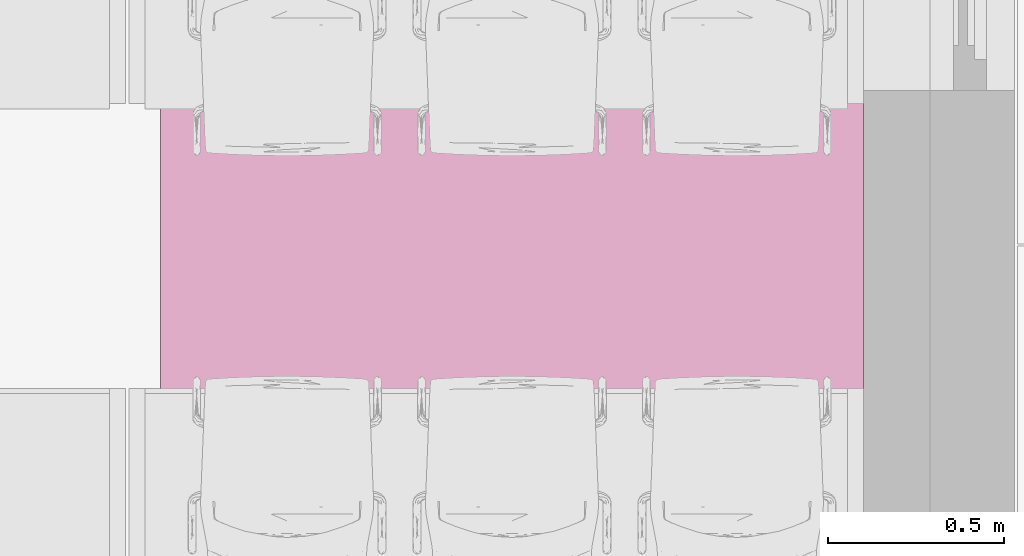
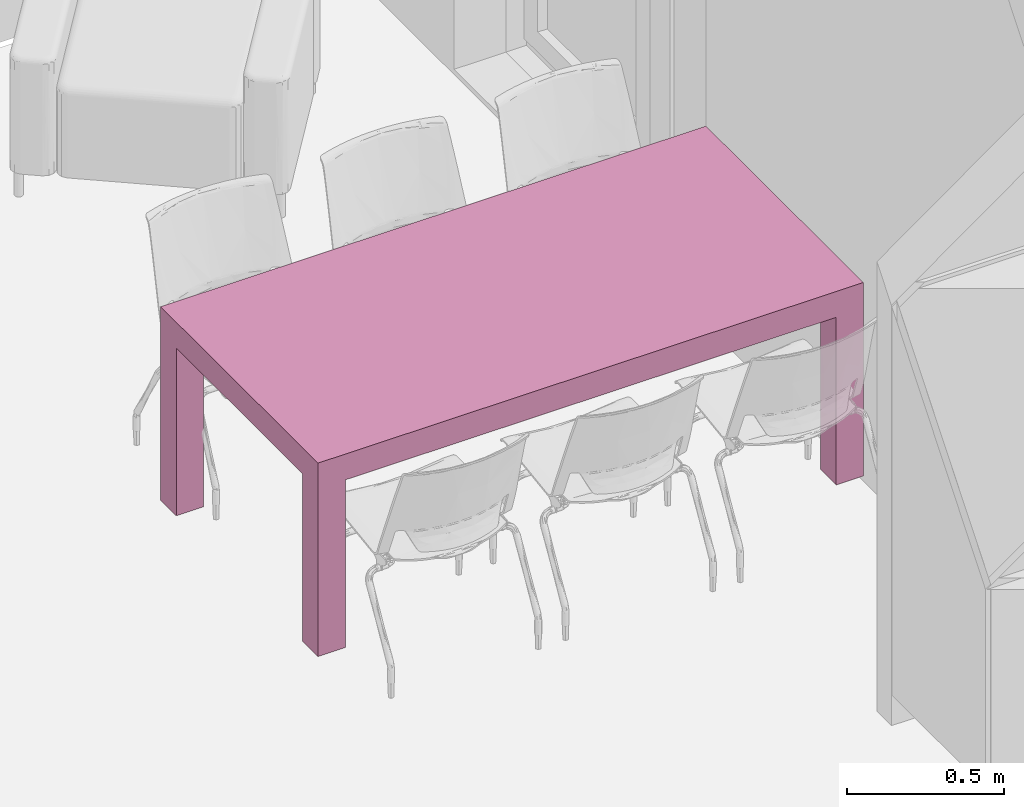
# One storey, part 36 of 57: 1 furnishing.
"""IFC2X3 building model written with IfcOpenShell, lengths in millimetres."""

from ifc_helpers import new_model, entity, si_unit, converted_unit, direction, frame, origin, place, context, subcontext, project, spatial, faceted_brep, source, transform, mapped, material, type_object, type_shapes, element, save


model = new_model("IFC2X3")

# Units and contexts
model_context = context("Model", 3, precision=0.01, world=origin(), true_north=direction((6.123233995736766e-17, 1.0)))
plan_context = context("Plan", 3, precision=0.01, world=origin(), true_north=direction((6.123233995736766e-17, 1.0)))
body_context = subcontext(model_context, "Body", "Model", "MODEL_VIEW")
ifc_project = project(units=[si_unit("LENGTHUNIT", "METRE", prefix="MILLI"), converted_unit("PLANEANGLEUNIT", "DEGREE", entity("IfcPlaneAngleMeasure", 0.017453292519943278), si_unit("PLANEANGLEUNIT", "RADIAN"), dimensions=[0, 0, 0, 0, 0, 0, 0]), si_unit("AREAUNIT", "SQUARE_METRE")], contexts=[model_context, plan_context])

# Site, building, storey, space
site_placement = place(None, origin())
site = spatial("IfcSite", under=ifc_project, at=site_placement, Name="Default", CompositionType="ELEMENT")
building_placement = place(site_placement, origin())
building = spatial("IfcBuilding", under=site, at=building_placement, CompositionType="ELEMENT")
storey_placement = place(building_placement, frame((0.0, 0.0, 12811.000000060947)))
storey = spatial("IfcBuildingStorey", under=building, at=storey_placement, Name="5K", CompositionType="ELEMENT", Elevation=12811.000000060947)
space_placement = place(storey_placement, origin())
space = spatial("IfcSpace", under=storey, at=space_placement, Name="5-12.4", CompositionType="ELEMENT", InteriorOrExteriorSpace="INTERNAL")

# Furnishing
ifc_material = material(Name="<Unnamed>")
furniture_type = type_object("IfcFurnitureType", Name="HR_Furniture_Table_Generic_v2016-02-11:2000x1000", AssemblyPlace="NOTDEFINED", material=ifc_material)
shared_shape = source(origin(), body_context, "Body", "Brep", [
    faceted_brep([(-500.0, -900.0, 0.0), (-400.0, -900.0, 0.0), (-400.0, -1000.0, 0.0), (-500.0, -1000.0, 0.0), (-400.0, 1000.0, 0.0), (-500.0, 1000.0, 0.0), (-500.0, 1000.0, 750.0), (500.0, 1000.0, 750.0), (500.0, 1000.0, 0.0), (400.0, 1000.0, 0.0), (400.0, 1000.0, 650.0), (-400.0, 1000.0, 650.0), (-500.0, 900.0, 0.0), (-500.0, 900.0, 650.0), (-500.0, -900.0, 650.0), (-500.0, -1000.0, 750.0), (-400.0, 900.0, 0.0), (-400.0, 900.0, 650.0), (400.0, 900.0, 0.0), (400.0, 900.0, 650.0), (500.0, 900.0, 0.0), (500.0, 900.0, 650.0), (500.0, -1000.0, 750.0), (500.0, -1000.0, 0.0), (500.0, -900.0, 0.0), (500.0, -900.0, 650.0), (400.0, -900.0, 0.0), (400.0, -900.0, 650.0), (400.0, -1000.0, 0.0), (400.0, -1000.0, 650.0), (-400.0, -1000.0, 650.0), (-400.0, -900.0, 650.0)], [[[0, 1, 2, 3]], [[4, 5, 6, 7, 8, 9, 10, 11]], [[6, 5, 12, 13, 14, 0, 3, 15]], [[12, 16, 17, 13]], [[16, 4, 11, 17]], [[9, 18, 19, 10]], [[18, 20, 21, 19]], [[20, 8, 7, 22, 23, 24, 25, 21]], [[24, 26, 27, 25]], [[26, 28, 29, 27]], [[28, 23, 22, 15, 3, 2, 30, 29]], [[2, 1, 31, 30]], [[1, 0, 14, 31]], [[7, 6, 15, 22]], [[11, 10, 19, 21, 25, 27, 29, 30, 31, 14, 13, 17]], [[4, 16, 12, 5]], [[8, 20, 18, 9]], [[24, 23, 28, 26]]]),
])
type_shapes(furniture_type, [shared_shape])
furnishing_placement = place(space_placement, frame((10900.0, 12450.0, 0.0), z_axis=(0.0, 0.0, 1.0), x_axis=(0.0, -1.0, 0.0)))
element("IfcFurnishingElement", 1, at=furnishing_placement, inside=space, type_object=furniture_type, material=ifc_material, Name="HR_Furniture_Table_Generic_v2016-02-11:2000x1000", ObjectType="HR_Furniture_Table_Generic_v2016-02-11:2000x1000", context=body_context, shape_type="MappedRepresentation", body=[
    mapped(shared_shape, transform((0.0, 0.0, 0.0), scale=1.0)),
])

save(model, "model.ifc")
